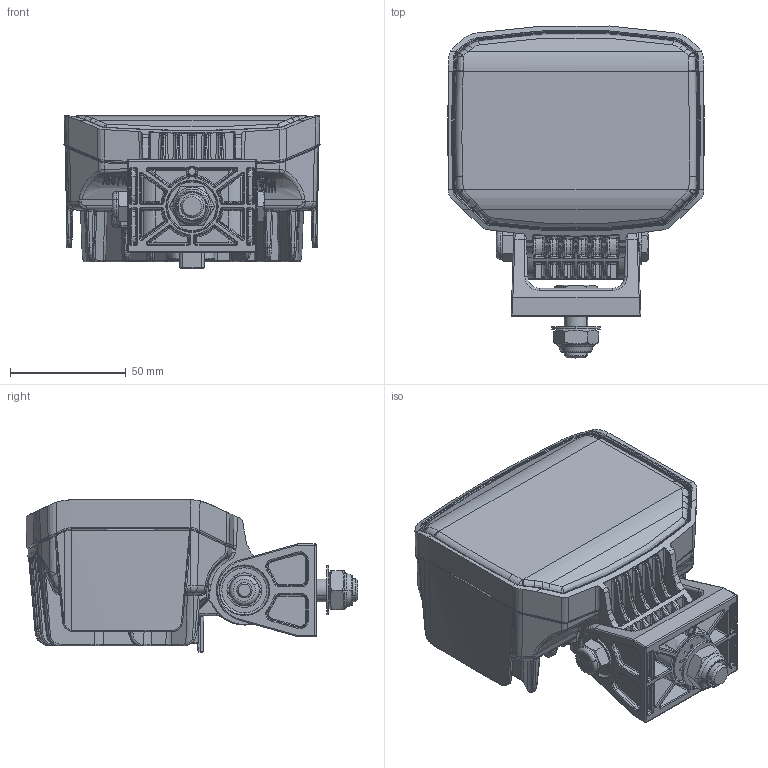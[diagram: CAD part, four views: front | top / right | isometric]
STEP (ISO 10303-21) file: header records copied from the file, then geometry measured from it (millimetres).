
FILE_DESCRIPTION(('HOOPS Exchange Step'),'2;1');
FILE_NAME('C:\Users\koerju1\PDM_Zeichnungen und Montageanleitungen\10003429409_D10_001_LEUCHTE_ZR_0GR_MD12-24_DT_PB-I.stp','2023-11-22T08:24:17+01:00',('koerju1'),('Unknown organisation'),'HOOPS Exchange 2023.2','HOOPS Exchange','Unknown authorisation');
FILE_SCHEMA( ('AUTOMOTIVE_DESIGN { 1 0 10303 214 1 1 1 1 }') );
Length unit declared in the file: millimetre
Products named in the file (1): 10003429409_D10_001
Bounding box: 110.55 x 143.14 x 65.7 mm (x, y, z)
Volume: 447517.9 mm3; surface area: 101958.7 mm2
Topology: 2 solids, 3 shells, 5380 faces, 13149 edges, 7572 vertices
Faces by surface type: bspline 2417, plane 1275, cylinder 978, cone 273, torus 272, sphere 141, offset 12, extrusion 12
Entity records: 391119 total; most frequent: CARTESIAN_POINT 287928, ORIENTED_EDGE 25708, DIRECTION 13817, EDGE_CURVE 12854, VERTEX_POINT 7573, B_SPLINE_CURVE_WITH_KNOTS 7247, EDGE_LOOP 5499, FACE_BOUND 5499
